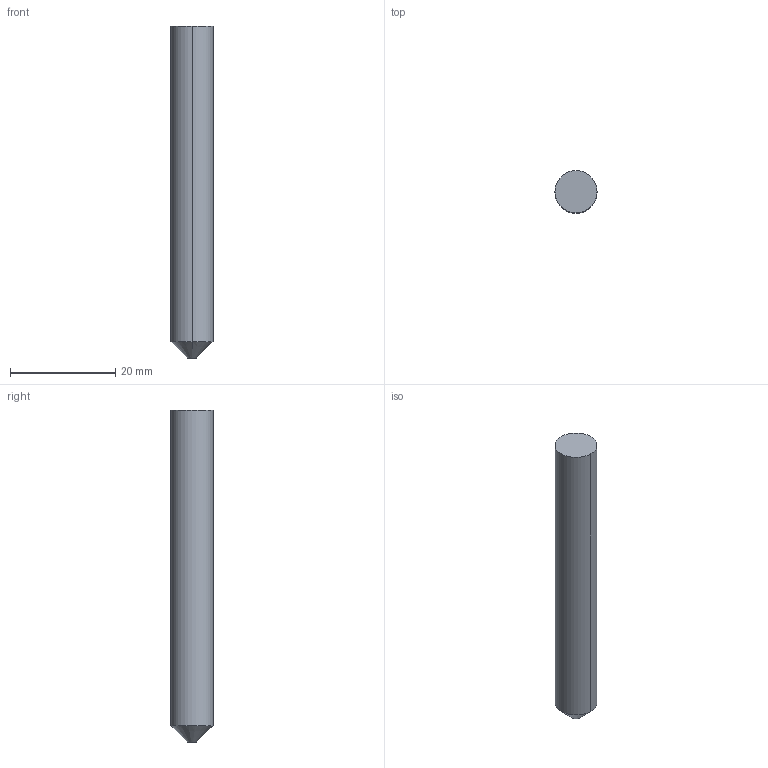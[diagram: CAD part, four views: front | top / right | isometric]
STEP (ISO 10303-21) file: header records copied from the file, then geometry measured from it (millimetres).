
FILE_DESCRIPTION((' '),'2;1');
FILE_NAME( '5HCM08003B.stp', '2026-01-21T09:09:00', (' '), ('--- Datakit www.datakit.com---'), ' Datakit CrossCadWare V2025.4 Sep 19 2025', 'Mastercam 2027', ' ');
FILE_SCHEMA(('AUTOMOTIVE_DESIGN { 1 0 10303 214 1 1 1 1 }'));
Length unit declared in the file: inch
Products named in the file (1): 5HCM08003B
Bounding box: 8 x 8 x 63 mm (x, y, z)
Volume: 3074.8 mm3; surface area: 1725.4 mm2
Topology: 2 solids, 2 shells, 8 faces, 14 edges, 12 vertices
Faces by surface type: plane 4, cone 2, cylinder 2
Entity records: 268 total; most frequent: DIRECTION 48, CARTESIAN_POINT 36, ORIENTED_EDGE 24, AXIS2_PLACEMENT_3D 21, EDGE_CURVE 12, VERTEX_POINT 8, CIRCLE 8, EDGE_LOOP 8
